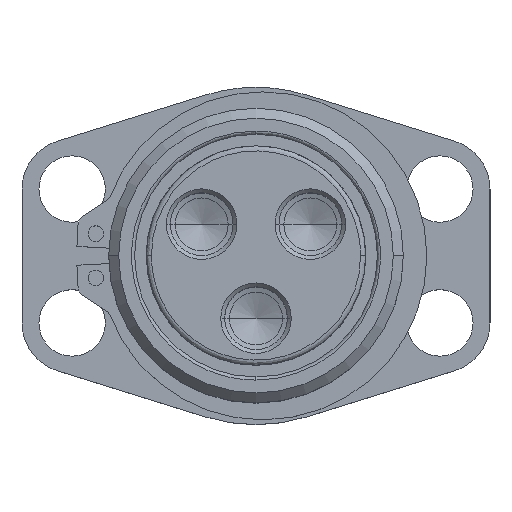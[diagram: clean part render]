
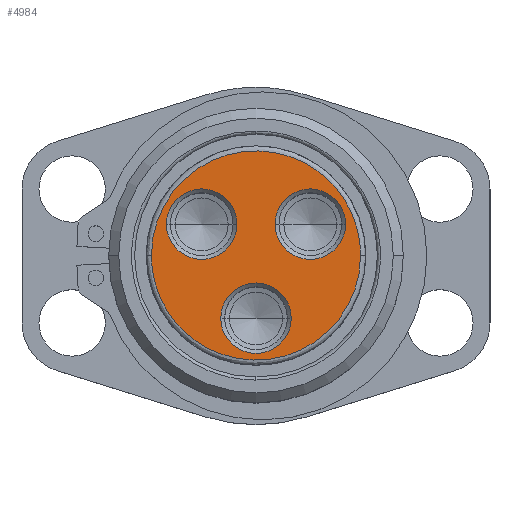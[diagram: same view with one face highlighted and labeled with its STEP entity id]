
A CAD part, top view. The second image highlights one B-rep face of the part: STEP entity #4984.
In plain terms, the highlighted planar face has unit normal (0, 0, 1).
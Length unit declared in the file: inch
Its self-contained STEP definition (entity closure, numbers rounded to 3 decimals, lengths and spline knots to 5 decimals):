
#2 = VERTEX_POINT ( 'NONE', #2729 ) ;
#31 =( BOUNDED_CURVE ( )  B_SPLINE_CURVE ( 3, ( #5263, #1613, #5801, #2144 ),
 .UNSPECIFIED., .F., .F. ) 
 B_SPLINE_CURVE_WITH_KNOTS ( ( 4, 4 ),
 ( 0., 1. ),
 .UNSPECIFIED. ) 
 CURVE ( )  GEOMETRIC_REPRESENTATION_ITEM ( )  RATIONAL_B_SPLINE_CURVE ( ( 1., 0.333, 0.333, 1. ) ) 
 REPRESENTATION_ITEM ( '' )  );
#114 =( BOUNDED_CURVE ( )  B_SPLINE_CURVE ( 3, ( #4698, #5616, #3902, #621 ),
 .UNSPECIFIED., .F., .F. ) 
 B_SPLINE_CURVE_WITH_KNOTS ( ( 4, 4 ),
 ( 0., 1. ),
 .UNSPECIFIED. ) 
 CURVE ( )  GEOMETRIC_REPRESENTATION_ITEM ( )  RATIONAL_B_SPLINE_CURVE ( ( 1., 0.333, 0.333, 1. ) ) 
 REPRESENTATION_ITEM ( '' )  );
#162 = CARTESIAN_POINT ( 'NONE',  ( 0.43301, 0.25, 0. ) ) ;
#175 = CARTESIAN_POINT ( 'NONE',  ( -0.43301, 0.25, 0. ) ) ;
#193 = VERTEX_POINT ( 'NONE', #2012 ) ;
#392 = CARTESIAN_POINT ( 'NONE',  ( 0., 0., 0. ) ) ;
#410 = PLANE ( 'NONE',  #5173 ) ;
#578 = DIRECTION ( 'NONE',  ( 1., 0., 0. ) ) ;
#621 = CARTESIAN_POINT ( 'NONE',  ( -0.8341, 0., 0. ) ) ;
#679 = EDGE_CURVE ( 'NONE', #4837, #697, #1011, .T. ) ;
#697 = VERTEX_POINT ( 'NONE', #1482 ) ;
#811 = DIRECTION ( 'NONE',  ( 0., 0., -1. ) ) ;
#877 = CARTESIAN_POINT ( 'NONE',  ( 0., -0.5, 0. ) ) ;
#1011 = CIRCLE ( 'NONE', #3270, 0.28095 ) ;
#1073 = CIRCLE ( 'NONE', #2395, 0.28095 ) ;
#1113 = CARTESIAN_POINT ( 'NONE',  ( -0.43301, 0.25, 0. ) ) ;
#1125 = DIRECTION ( 'NONE',  ( 1., 0., 0. ) ) ;
#1189 = CARTESIAN_POINT ( 'NONE',  ( 0.71396, 0.25, 0. ) ) ;
#1208 = DIRECTION ( 'NONE',  ( 1., 0., 0. ) ) ;
#1326 = DIRECTION ( 'NONE',  ( 0., 0., -1. ) ) ;
#1482 = CARTESIAN_POINT ( 'NONE',  ( 0.15206, 0.25, 0. ) ) ;
#1613 = CARTESIAN_POINT ( 'NONE',  ( -0.8341, 1.6682, 0. ) ) ;
#1765 = CARTESIAN_POINT ( 'NONE',  ( 0., -0.5, 0. ) ) ;
#1994 = DIRECTION ( 'NONE',  ( 1., 0., 0. ) ) ;
#2012 = CARTESIAN_POINT ( 'NONE',  ( -0.8341, 0., 0. ) ) ;
#2016 = DIRECTION ( 'NONE',  ( 0., 0., -1. ) ) ;
#2032 = ORIENTED_EDGE ( 'NONE', *, *, #3554, .T. ) ;
#2144 = CARTESIAN_POINT ( 'NONE',  ( 0.8341, 0., 0. ) ) ;
#2259 = CARTESIAN_POINT ( 'NONE',  ( -0.71396, 0.25, 0. ) ) ;
#2395 = AXIS2_PLACEMENT_3D ( 'NONE', #2623, #811, #1208 ) ;
#2528 = CIRCLE ( 'NONE', #3445, 0.28095 ) ;
#2617 = EDGE_LOOP ( 'NONE', ( #3682, #4480 ) ) ;
#2623 = CARTESIAN_POINT ( 'NONE',  ( 0.43301, 0.25, 0. ) ) ;
#2648 = FACE_BOUND ( 'NONE', #4757, .T. ) ;
#2729 = CARTESIAN_POINT ( 'NONE',  ( -0.15206, 0.25, 0. ) ) ;
#3120 = ORIENTED_EDGE ( 'NONE', *, *, #4736, .T. ) ;
#3270 = AXIS2_PLACEMENT_3D ( 'NONE', #162, #2016, #1994 ) ;
#3390 = DIRECTION ( 'NONE',  ( 0., 0., -1. ) ) ;
#3445 = AXIS2_PLACEMENT_3D ( 'NONE', #1765, #4972, #4109 ) ;
#3452 = ORIENTED_EDGE ( 'NONE', *, *, #3556, .T. ) ;
#3500 = VERTEX_POINT ( 'NONE', #4899 ) ;
#3554 = EDGE_CURVE ( 'NONE', #3500, #5333, #3669, .T. ) ;
#3556 = EDGE_CURVE ( 'NONE', #5333, #3500, #2528, .T. ) ;
#3607 = DIRECTION ( 'NONE',  ( 1., 0., 0. ) ) ;
#3669 = CIRCLE ( 'NONE', #3705, 0.28095 ) ;
#3682 = ORIENTED_EDGE ( 'NONE', *, *, #3878, .F. ) ;
#3705 = AXIS2_PLACEMENT_3D ( 'NONE', #877, #1326, #4067 ) ;
#3742 = FACE_BOUND ( 'NONE', #4244, .T. ) ;
#3878 = EDGE_CURVE ( 'NONE', #193, #5568, #31, .T. ) ;
#3902 = CARTESIAN_POINT ( 'NONE',  ( -0.8341, -1.6682, 0. ) ) ;
#4067 = DIRECTION ( 'NONE',  ( 1., 0., 0. ) ) ;
#4109 = DIRECTION ( 'NONE',  ( 1., 0., 0. ) ) ;
#4244 = EDGE_LOOP ( 'NONE', ( #4608, #4629 ) ) ;
#4339 = DIRECTION ( 'NONE',  ( 0., 0., -1. ) ) ;
#4420 = EDGE_CURVE ( 'NONE', #5568, #193, #114, .T. ) ;
#4427 = AXIS2_PLACEMENT_3D ( 'NONE', #175, #3390, #578 ) ;
#4442 = CARTESIAN_POINT ( 'NONE',  ( 0.8341, 0., 0. ) ) ;
#4480 = ORIENTED_EDGE ( 'NONE', *, *, #4420, .F. ) ;
#4555 = DIRECTION ( 'NONE',  ( 0., 0., 1. ) ) ;
#4608 = ORIENTED_EDGE ( 'NONE', *, *, #679, .T. ) ;
#4629 = ORIENTED_EDGE ( 'NONE', *, *, #5769, .T. ) ;
#4675 = EDGE_LOOP ( 'NONE', ( #5435, #3120 ) ) ;
#4698 = CARTESIAN_POINT ( 'NONE',  ( 0.8341, 0., 0. ) ) ;
#4736 = EDGE_CURVE ( 'NONE', #5719, #2, #4856, .T. ) ;
#4757 = EDGE_LOOP ( 'NONE', ( #3452, #2032 ) ) ;
#4837 = VERTEX_POINT ( 'NONE', #1189 ) ;
#4856 = CIRCLE ( 'NONE', #4427, 0.28095 ) ;
#4890 = AXIS2_PLACEMENT_3D ( 'NONE', #1113, #4339, #1125 ) ;
#4899 = CARTESIAN_POINT ( 'NONE',  ( -0.28095, -0.5, 0. ) ) ;
#4972 = DIRECTION ( 'NONE',  ( 0., 0., -1. ) ) ;
#4984 = ADVANCED_FACE ( 'NONE', ( #5291, #2648, #3742, #5713 ), #410, .T. ) ;
#5173 = AXIS2_PLACEMENT_3D ( 'NONE', #392, #4555, #3607 ) ;
#5187 = CARTESIAN_POINT ( 'NONE',  ( 0.28095, -0.5, 0. ) ) ;
#5214 = CIRCLE ( 'NONE', #4890, 0.28095 ) ;
#5263 = CARTESIAN_POINT ( 'NONE',  ( -0.8341, 0., 0. ) ) ;
#5291 = FACE_OUTER_BOUND ( 'NONE', #2617, .T. ) ;
#5333 = VERTEX_POINT ( 'NONE', #5187 ) ;
#5415 = EDGE_CURVE ( 'NONE', #2, #5719, #5214, .T. ) ;
#5435 = ORIENTED_EDGE ( 'NONE', *, *, #5415, .T. ) ;
#5568 = VERTEX_POINT ( 'NONE', #4442 ) ;
#5616 = CARTESIAN_POINT ( 'NONE',  ( 0.8341, -1.6682, 0. ) ) ;
#5713 = FACE_BOUND ( 'NONE', #4675, .T. ) ;
#5719 = VERTEX_POINT ( 'NONE', #2259 ) ;
#5769 = EDGE_CURVE ( 'NONE', #697, #4837, #1073, .T. ) ;
#5801 = CARTESIAN_POINT ( 'NONE',  ( 0.8341, 1.6682, 0. ) ) ;
